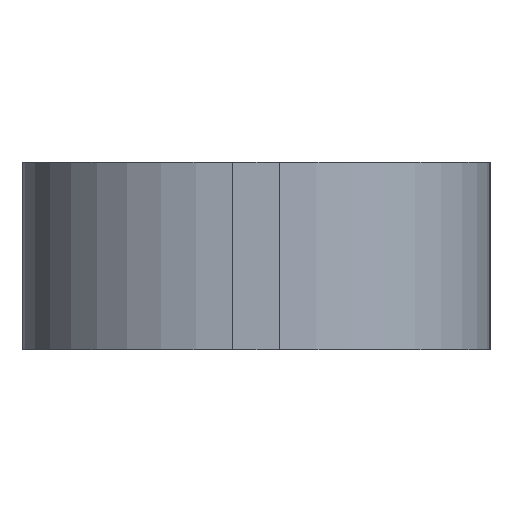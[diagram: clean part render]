
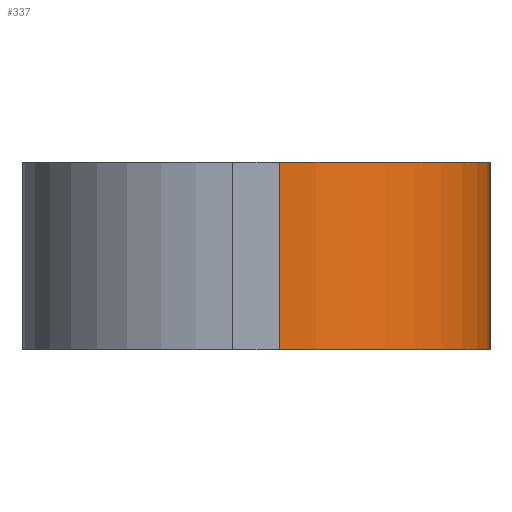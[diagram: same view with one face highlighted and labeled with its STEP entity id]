
A CAD part, left-side view. The second image highlights one B-rep face of the part: STEP entity #337.
In plain terms, the highlighted cylindrical face has radius 0.9 mm (diameter 1.8 mm), a partial arc.
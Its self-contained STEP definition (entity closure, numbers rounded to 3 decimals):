
#22 = VERTEX_POINT('',#23);
#23 = CARTESIAN_POINT('',(23.2,10.1,40.));
#32 = PLANE('',#33);
#33 = AXIS2_PLACEMENT_3D('',#34,#35,#36);
#34 = CARTESIAN_POINT('',(23.2,9.2,39.2));
#35 = DIRECTION('',(1.,0.,0.));
#36 = DIRECTION('',(0.,0.,1.));
#44 = PLANE('',#45);
#45 = AXIS2_PLACEMENT_3D('',#46,#47,#48);
#46 = CARTESIAN_POINT('',(23.2,9.2,40.));
#47 = DIRECTION('',(0.,0.,1.));
#48 = DIRECTION('',(1.,0.,0.));
#56 = EDGE_CURVE('',#57,#22,#59,.T.);
#57 = VERTEX_POINT('',#58);
#58 = CARTESIAN_POINT('',(23.2,10.1,39.2));
#59 = SURFACE_CURVE('',#60,(#64,#71),.PCURVE_S1.);
#60 = LINE('',#61,#62);
#61 = CARTESIAN_POINT('',(23.2,10.1,39.2));
#62 = VECTOR('',#63,1.);
#63 = DIRECTION('',(0.,0.,1.));
#64 = PCURVE('',#32,#65);
#65 = DEFINITIONAL_REPRESENTATION('',(#66),#70);
#66 = LINE('',#67,#68);
#67 = CARTESIAN_POINT('',(0.,-0.9));
#68 = VECTOR('',#69,1.);
#69 = DIRECTION('',(1.,0.));
#70 = ( GEOMETRIC_REPRESENTATION_CONTEXT(2) 
PARAMETRIC_REPRESENTATION_CONTEXT() REPRESENTATION_CONTEXT('2D SPACE',''
  ) );
#71 = PCURVE('',#72,#77);
#72 = CYLINDRICAL_SURFACE('',#73,0.9);
#73 = AXIS2_PLACEMENT_3D('',#74,#75,#76);
#74 = CARTESIAN_POINT('',(24.1,10.1,39.2));
#75 = DIRECTION('',(0.,0.,1.));
#76 = DIRECTION('',(-1.,-0.,0.));
#77 = DEFINITIONAL_REPRESENTATION('',(#78),#82);
#78 = LINE('',#79,#80);
#79 = CARTESIAN_POINT('',(0.,0.));
#80 = VECTOR('',#81,1.);
#81 = DIRECTION('',(0.,1.));
#82 = ( GEOMETRIC_REPRESENTATION_CONTEXT(2) 
PARAMETRIC_REPRESENTATION_CONTEXT() REPRESENTATION_CONTEXT('2D SPACE',''
  ) );
#100 = PLANE('',#101);
#101 = AXIS2_PLACEMENT_3D('',#102,#103,#104);
#102 = CARTESIAN_POINT('',(23.2,9.2,39.2));
#103 = DIRECTION('',(0.,0.,1.));
#104 = DIRECTION('',(1.,0.,0.));
#142 = EDGE_CURVE('',#22,#143,#145,.T.);
#143 = VERTEX_POINT('',#144);
#144 = CARTESIAN_POINT('',(24.1,9.2,40.));
#145 = SURFACE_CURVE('',#146,(#151,#158),.PCURVE_S1.);
#146 = CIRCLE('',#147,0.9);
#147 = AXIS2_PLACEMENT_3D('',#148,#149,#150);
#148 = CARTESIAN_POINT('',(24.1,10.1,40.));
#149 = DIRECTION('',(0.,0.,1.));
#150 = DIRECTION('',(0.,-1.,0.));
#151 = PCURVE('',#44,#152);
#152 = DEFINITIONAL_REPRESENTATION('',(#153),#157);
#153 = CIRCLE('',#154,0.9);
#154 = AXIS2_PLACEMENT_2D('',#155,#156);
#155 = CARTESIAN_POINT('',(0.9,0.9));
#156 = DIRECTION('',(0.,-1.));
#157 = ( GEOMETRIC_REPRESENTATION_CONTEXT(2) 
PARAMETRIC_REPRESENTATION_CONTEXT() REPRESENTATION_CONTEXT('2D SPACE',''
  ) );
#158 = PCURVE('',#72,#159);
#159 = DEFINITIONAL_REPRESENTATION('',(#160),#164);
#160 = LINE('',#161,#162);
#161 = CARTESIAN_POINT('',(-4.712,0.8));
#162 = VECTOR('',#163,1.);
#163 = DIRECTION('',(1.,0.));
#164 = ( GEOMETRIC_REPRESENTATION_CONTEXT(2) 
PARAMETRIC_REPRESENTATION_CONTEXT() REPRESENTATION_CONTEXT('2D SPACE',''
  ) );
#182 = PLANE('',#183);
#183 = AXIS2_PLACEMENT_3D('',#184,#185,#186);
#184 = CARTESIAN_POINT('',(23.2,9.2,39.2));
#185 = DIRECTION('',(0.,1.,0.));
#186 = DIRECTION('',(0.,0.,1.));
#337 = ADVANCED_FACE('',(#338),#72,.T.);
#338 = FACE_BOUND('',#339,.T.);
#339 = EDGE_LOOP('',(#340,#364,#385,#386));
#340 = ORIENTED_EDGE('',*,*,#341,.T.);
#341 = EDGE_CURVE('',#57,#342,#344,.T.);
#342 = VERTEX_POINT('',#343);
#343 = CARTESIAN_POINT('',(24.1,9.2,39.2));
#344 = SURFACE_CURVE('',#345,(#350,#357),.PCURVE_S1.);
#345 = CIRCLE('',#346,0.9);
#346 = AXIS2_PLACEMENT_3D('',#347,#348,#349);
#347 = CARTESIAN_POINT('',(24.1,10.1,39.2));
#348 = DIRECTION('',(0.,0.,1.));
#349 = DIRECTION('',(0.,-1.,0.));
#350 = PCURVE('',#72,#351);
#351 = DEFINITIONAL_REPRESENTATION('',(#352),#356);
#352 = LINE('',#353,#354);
#353 = CARTESIAN_POINT('',(-4.712,0.));
#354 = VECTOR('',#355,1.);
#355 = DIRECTION('',(1.,0.));
#356 = ( GEOMETRIC_REPRESENTATION_CONTEXT(2) 
PARAMETRIC_REPRESENTATION_CONTEXT() REPRESENTATION_CONTEXT('2D SPACE',''
  ) );
#357 = PCURVE('',#100,#358);
#358 = DEFINITIONAL_REPRESENTATION('',(#359),#363);
#359 = CIRCLE('',#360,0.9);
#360 = AXIS2_PLACEMENT_2D('',#361,#362);
#361 = CARTESIAN_POINT('',(0.9,0.9));
#362 = DIRECTION('',(0.,-1.));
#363 = ( GEOMETRIC_REPRESENTATION_CONTEXT(2) 
PARAMETRIC_REPRESENTATION_CONTEXT() REPRESENTATION_CONTEXT('2D SPACE',''
  ) );
#364 = ORIENTED_EDGE('',*,*,#365,.T.);
#365 = EDGE_CURVE('',#342,#143,#366,.T.);
#366 = SURFACE_CURVE('',#367,(#371,#378),.PCURVE_S1.);
#367 = LINE('',#368,#369);
#368 = CARTESIAN_POINT('',(24.1,9.2,39.2));
#369 = VECTOR('',#370,1.);
#370 = DIRECTION('',(0.,0.,1.));
#371 = PCURVE('',#72,#372);
#372 = DEFINITIONAL_REPRESENTATION('',(#373),#377);
#373 = LINE('',#374,#375);
#374 = CARTESIAN_POINT('',(1.571,0.));
#375 = VECTOR('',#376,1.);
#376 = DIRECTION('',(0.,1.));
#377 = ( GEOMETRIC_REPRESENTATION_CONTEXT(2) 
PARAMETRIC_REPRESENTATION_CONTEXT() REPRESENTATION_CONTEXT('2D SPACE',''
  ) );
#378 = PCURVE('',#182,#379);
#379 = DEFINITIONAL_REPRESENTATION('',(#380),#384);
#380 = LINE('',#381,#382);
#381 = CARTESIAN_POINT('',(0.,0.9));
#382 = VECTOR('',#383,1.);
#383 = DIRECTION('',(1.,0.));
#384 = ( GEOMETRIC_REPRESENTATION_CONTEXT(2) 
PARAMETRIC_REPRESENTATION_CONTEXT() REPRESENTATION_CONTEXT('2D SPACE',''
  ) );
#385 = ORIENTED_EDGE('',*,*,#142,.F.);
#386 = ORIENTED_EDGE('',*,*,#56,.F.);
